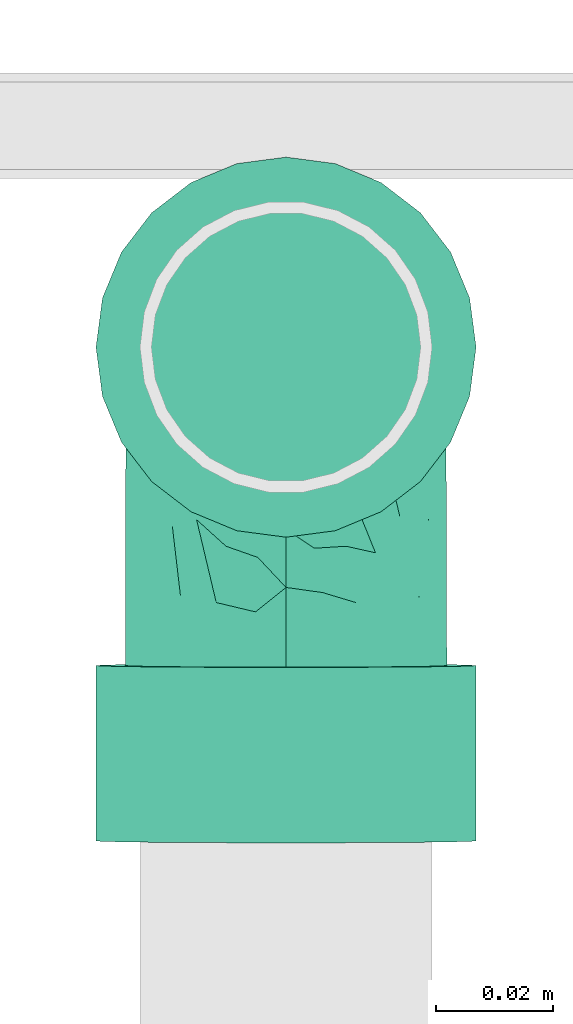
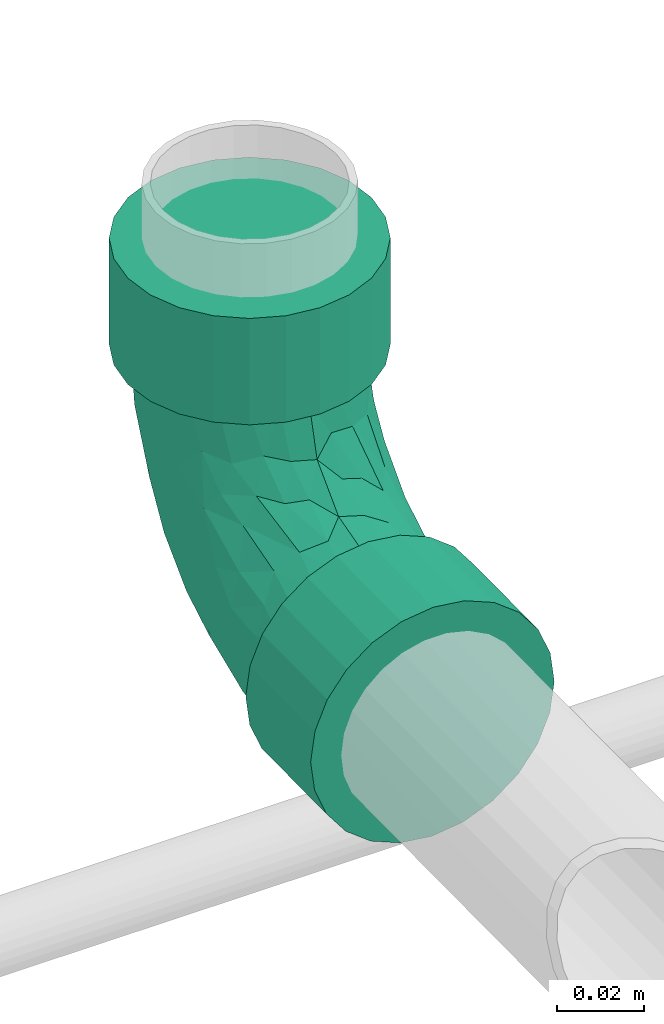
# One storey, part 29 of 35: 1 flow fitting.
"""IFC2X3 building model written with IfcOpenShell, lengths in millimetres."""

from ifc_helpers import new_model, entity, si_unit, converted_unit, derived_unit, direction, frame, origin_with_axes, place, context, subcontext, project, spatial, open_shell, surface_model, source, transform, mapped, type_object, element, save


model = new_model("IFC2X3")

# Units and contexts
model_context = context("Model", 3, precision=0.01, world=frame((0.0, 4.29681676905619e-09, 0.0)), true_north=direction((4.01073788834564e-13, 1.0)))
plan_context = context("Plan", 3, precision=0.01, world=frame((0.0, 4.29681676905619e-09, 0.0)), true_north=direction((4.01073788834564e-13, 1.0)))
body_context = subcontext(model_context, "Body", "Model", "MODEL_VIEW")
ifc_project = project(units=[converted_unit("PLANEANGLEUNIT", "DEGREE", entity("IfcPositiveLengthMeasure", 0.0174532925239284), si_unit("PLANEANGLEUNIT", "RADIAN"), dimensions=[0, 0, 0, 0, 0, 0, 0]), si_unit("AREAUNIT", "SQUARE_METRE"), si_unit("LENGTHUNIT", "METRE", prefix="MILLI"), si_unit("MASSUNIT", "GRAM", prefix="KILO"), si_unit("POWERUNIT", "WATT"), si_unit("PRESSUREUNIT", "PASCAL"), si_unit("FORCEUNIT", "NEWTON", prefix="KILO"), si_unit("ELECTRICVOLTAGEUNIT", "VOLT"), si_unit("ELECTRICCURRENTUNIT", "AMPERE"), si_unit("THERMODYNAMICTEMPERATUREUNIT", "DEGREE_CELSIUS"), si_unit("TIMEUNIT", "SECOND"), si_unit("VOLUMEUNIT", "CUBIC_METRE"), derived_unit("LINEARVELOCITYUNIT", [(si_unit("LENGTHUNIT", "METRE"), 1), (si_unit("TIMEUNIT", "SECOND"), -1)]), derived_unit("VOLUMETRICFLOWRATEUNIT", [(si_unit("VOLUMEUNIT", "CUBIC_METRE"), 1), (si_unit("TIMEUNIT", "SECOND"), -1)]), derived_unit("THERMALTRANSMITTANCEUNIT", [(si_unit("POWERUNIT", "WATT"), 1), (si_unit("THERMODYNAMICTEMPERATUREUNIT", "KELVIN"), -1), (si_unit("AREAUNIT", "SQUARE_METRE"), -1)]), derived_unit("SOUNDPRESSUREUNIT", [(si_unit("PRESSUREUNIT", "PASCAL"), 1)])], contexts=[model_context, plan_context])

# Site, building, storey
site_placement = place(None, frame((0.0, -4.29681676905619e-09, 0.0), z_axis=(0.0, 0.0, 1.0), x_axis=(1.0, 0.0, 0.0)))
site = spatial("IfcSite", under=ifc_project, at=site_placement, Name="ENGM", CompositionType="ELEMENT")
building_placement = place(site_placement, frame((0.0, 4.29681676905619e-09, 0.0), z_axis=(0.0, 0.0, 1.0), x_axis=(1.0, 0.0, 0.0)))
building = spatial("IfcBuilding", under=site, at=building_placement, Name="TH", CompositionType="ELEMENT")
storey_placement = place(building_placement, frame((0.0, 0.0, 210200.0), z_axis=(0.0, 0.0, 1.0), x_axis=(1.0, 0.0, 0.0)))
storey = spatial("IfcBuildingStorey", under=building, at=storey_placement, Name="Nivå F - 0,7 m", CompositionType="ELEMENT", Elevation=210200.0)

# Flow fitting
pipe_fitting_type = type_object("IfcPipeFittingType", Name="magi_sewer_bend_001 2", PredefinedType="BEND")
shared_shape = source(origin_with_axes(), body_context, "Body", "SurfaceModel", [
    surface_model("IfcShellBasedSurfaceModel", [(-84.45275, -16.25, -28.14582), (-84.45275, 0.0, -32.5), (-84.45275, -8.41162, -31.39259), (-84.45275, -28.14582, -16.25), (-84.45275, -22.98097, -22.98097), (-84.45275, -31.39259, -8.41162), (-84.45275, 22.98097, -22.98097), (-84.45275, 32.5, 0.0), (-84.45275, 16.25, -28.14582), (-84.45275, 8.41162, -31.39259), (-84.45275, 31.39259, -8.41162), (-84.45275, 28.14582, -16.25), (-84.45275, -32.5, 0.0), (-84.45275, -31.39259, 8.41162), (-84.45275, 0.0, 32.5), (-84.45275, -28.14582, 16.25), (-84.45275, -16.25, 28.14582), (-84.45275, -22.98097, 22.98097), (-84.45275, -8.41162, 31.39259), (-84.45275, 28.14582, 16.25), (-84.45275, 31.39259, 8.41162), (-84.45275, 22.98097, 22.98097), (-84.45275, 16.25, 28.14582), (-84.45275, 8.41162, 31.39259), (-54.45275, 0.0, 32.5), (-54.45275, -8.41162, 31.39259), (-54.45275, -16.25, 28.14582), (-54.45275, -28.14582, 16.25), (-54.45275, -31.39259, 8.41162), (-54.45275, -22.98097, 22.98097), (-54.45275, 32.5, 0.0), (-54.45275, 16.25, 28.14582), (-54.45275, 8.41162, 31.39259), (-54.45275, 22.98097, 22.98097), (-54.45275, 28.14582, 16.25), (-54.45275, 31.39259, 8.41162), (-54.45275, -16.25, -28.14582), (-54.45275, -31.39259, -8.41162), (-54.45275, -28.14582, -16.25), (-54.45275, 22.98097, -22.98097), (-54.45275, -22.98097, -22.98097), (-54.45275, -8.41162, -31.39259), (-54.45275, 0.0, -32.5), (-54.45275, 31.39259, -8.41162), (-54.45275, 28.14582, -16.25), (-54.45275, 16.25, -28.14582), (-54.45275, 8.41162, -31.39259), (-54.45275, -32.5, 0.0), (-27.29993, 84.72998, 16.25), (-31.65389, 84.77351, 0.0), (-30.54653, 84.76244, 8.41162), (-7.56671, 84.53264, 31.39259), (-22.13534, 84.67833, 22.98097), (-27.29993, 84.72998, -16.25), (-15.4047, 84.61102, 28.14582), (-22.13534, 84.67833, -22.98097), (0.84449, 84.44852, -32.5), (-30.54653, 84.76244, -8.41162), (-7.56671, 84.53264, -31.39259), (-15.4047, 84.61102, -28.14582), (0.84449, 84.44852, 32.5), (9.25568, 84.36442, 31.39259), (17.09367, 84.28603, 28.14582), (23.82431, 84.21873, 22.98097), (28.9889, 84.16708, 16.25), (32.23551, 84.13462, 8.41162), (33.34286, 84.12354, 0.0), (9.25568, 84.36442, -31.39259), (23.82431, 84.21873, -22.98097), (17.09367, 84.28603, -28.14582), (32.23551, 84.13462, -8.41162), (28.9889, 84.16708, -16.25), (33.04288, 54.12504, 0.0), (31.93552, 54.13612, 8.41162), (28.68892, 54.16858, 16.25), (16.79369, 54.28753, 28.14582), (8.9557, 54.36592, 31.39259), (23.52432, 54.22023, 22.98097), (31.93552, 54.13612, -8.41162), (23.52432, 54.22023, -22.98097), (28.68892, 54.16858, -16.25), (8.9557, 54.36592, -31.39259), (16.79369, 54.28753, -28.14582), (-7.8667, 54.53414, -31.39259), (0.5445, 54.45003, -32.5), (-7.8667, 54.53414, 31.39259), (-22.43532, 54.67982, 22.98097), (-15.70469, 54.61252, 28.14582), (-27.59992, 54.73147, 16.25), (-30.84652, 54.76394, 8.41162), (-27.59992, 54.73147, -16.25), (-22.43532, 54.67982, -22.98097), (-15.70469, 54.61252, -28.14582), (-30.84652, 54.76394, -8.41162), (-31.95387, 54.77501, 0.0), (0.5445, 54.45003, 32.5), (-54.45275, 13.75, -23.8157), (-54.45275, 7.11752, -26.56296), (-54.45275, 0.0, -27.5), (-54.45275, -27.5, 0.0), (-54.45275, 26.56296, -7.11752), (-54.45275, 23.8157, -13.75), (-54.45275, 19.44544, -19.44544), (-54.45275, 23.8157, 13.75), (-54.45275, -13.75, -23.8157), (-54.45275, -19.44544, -19.44544), (-54.45275, -7.11752, -26.56296), (-54.45275, -23.8157, -13.75), (-54.45275, -26.56296, -7.11752), (-54.45275, 26.56296, 7.11752), (-54.45275, 27.5, 0.0), (-54.45275, -13.75, 23.8157), (-54.45275, 0.0, 27.5), (-54.45275, 13.75, 23.8157), (-54.45275, 19.44544, 19.44544), (-54.45275, 7.11752, 26.56296), (-54.45275, -19.44544, 19.44544), (-54.45275, -23.8157, 13.75), (-54.45275, -26.56296, 7.11752), (-54.45275, -7.11752, 26.56296), (0.5445, 54.45003, -27.5), (-6.57267, 54.5212, -26.56296), (-13.20481, 54.58752, -23.8157), (28.04313, 54.17504, 0.0), (-26.95413, 54.72501, 0.0), (-23.27001, 54.68817, -13.75), (-18.89996, 54.64447, -19.44544), (14.29381, 54.31253, -23.8157), (19.98896, 54.25558, -19.44544), (7.66167, 54.37886, -26.56296), (27.10613, 54.18441, -7.11752), (24.35901, 54.21188, -13.75), (-26.01713, 54.71564, -7.11752), (-26.01713, 54.71564, 7.11752), (-23.27001, 54.68817, 13.75), (-18.89996, 54.64447, 19.44544), (-13.20481, 54.58752, 23.8157), (-6.57267, 54.5212, 26.56296), (0.5445, 54.45003, 27.5), (24.35901, 54.21188, 13.75), (14.29381, 54.31253, 23.8157), (19.98896, 54.25558, 19.44544), (27.10613, 54.18441, 7.11752), (7.66167, 54.37886, 26.56296), (-39.76675, -21.35531, 15.44241), (-35.54863, -15.85366, 20.49833), (-38.76238, -24.39937, 0.0), (-23.71018, -17.48364, 13.89119), (-35.9842, -23.9951, 8.58599), (24.35372, 35.74247, 8.58599), (19.59056, 20.74364, 7.03942), (21.52839, 22.85788, 0.0), (-26.42903, 43.6757, 11.93584), (-39.87749, -10.39112, 24.74572), (-40.63376, 3.77208, 27.43142), (-36.84803, 11.86995, 26.18074), (-46.96523, 10.26665, 25.75338), (-9.74042, -12.463, 0.0), (-20.9385, -19.38216, 7.03943), (-23.07201, -21.29875, 0.0), (-20.878, -6.73955, 22.86535), (-26.99963, -0.28877, 26.66392), (-1.86279, -4.56869, 12.56519), (-0.29377, 0.34436, 16.57393), (-9.02795, -6.65917, 17.03928), (-33.84783, 23.56043, 21.28714), (-42.68951, 17.25577, 22.73934), (-29.41572, 20.99402, 24.35452), (-9.28261, 26.79544, 27.44443), (-20.03713, 20.2385, 26.81861), (-16.12228, 11.88962, 27.36846), (-41.21817, 23.28907, 18.17463), (-41.55809, -3.64447, 27.03321), (-9.79651, 47.06554, 25.75338), (-3.36558, 40.66944, 27.43142), (-27.8165, 9.2733, 27.42115), (-43.40923, 26.86444, 11.93584), (-41.6715, 29.83797, 6.26061), (-34.87456, 29.50055, 15.29902), (-6.89758, 18.05325, 26.99986), (-13.29145, 5.02005, 25.71449), (-2.43985, 14.63188, 25.27333), (-4.66048, 4.70732, 22.52789), (16.20834, 35.38832, 20.49833), (17.71985, 23.53416, 13.89119), (21.75189, 39.55122, 15.44241), (-33.70579, 34.04453, 10.26696), (4.05985, 41.51957, 27.03321), (10.78936, 39.7716, 24.74572), (6.94799, 20.80957, 22.86535), (24.78576, 38.51646, 0.0), (-11.5009, 36.96489, 26.18074), (-34.0245, 35.95558, 4.8359), (-40.78221, 31.1386, 0.0), (12.79904, 21.66776, 18.81196), (6.55839, 9.08609, 17.32378), (-30.72924, 41.09154, 0.0), (-28.19609, 45.27528, 5.21852), (-22.54579, 42.5286, 18.05566), (-19.57329, 35.24434, 23.1044), (-16.34593, 45.76032, 22.51571), (-17.84961, 28.89125, 25.60197), (-21.74546, -12.54854, 18.82097), (-28.66057, 30.50903, 19.45832), (0.55874, 26.99539, 26.66392), (-12.51856, -12.23827, 12.98169), (1.96444, -3.64161, 7.7884), (8.89107, 4.7398, 9.35149), (12.55978, 9.61531, 0.0), (-28.24356, 16.2174, 26.25157), (-6.77564, -10.81841, 8.12537), (3.59116, -3.62725, 0.0), (-21.74546, -12.54854, -18.82096), (-35.54863, -15.85366, -20.49833), (-20.878, -6.73955, -22.86535), (-23.71018, -17.48364, -13.89119), (-42.30103, 22.96993, -18.05566), (-45.59459, 16.80269, -22.51571), (-44.99107, 28.64741, -5.21852), (-35.9842, -23.9951, -8.58599), (-43.40923, 26.86444, -11.93584), (-20.9385, -19.38216, -7.03942), (-36.84803, 11.86995, -26.18074), (-35.04686, 19.92474, -23.1044), (-28.71132, 18.13762, -25.60197), (-22.87575, 41.44898, -18.17463), (10.78936, 39.7716, -24.74572), (6.94799, 20.80957, -22.86535), (0.55874, 26.99539, -26.66392), (-46.96523, 10.26665, -25.75338), (-39.76675, -21.35531, -15.44241), (-39.87749, -10.39112, -24.74572), (-26.42903, 43.67569, -11.93584), (-29.15035, 35.1678, -15.29902), (-33.70579, 34.04453, -10.26696), (-41.55809, -3.64447, -27.03321), (-26.70128, 9.55009, -27.44443), (-20.03713, 20.2385, -26.81861), (-11.72781, 16.24036, -27.36846), (-40.63376, 3.77208, -27.43142), (-29.41978, 41.96778, -6.26061), (-3.36558, 40.66944, -27.43142), (-11.5009, 36.96489, -26.18074), (-20.69883, 29.62418, -24.35452), (-16.82804, 42.85992, -22.73934), (-35.61355, 34.38234, -4.8359), (-23.22079, 34.08173, -21.28714), (-9.79651, 47.06554, -25.75338), (21.75189, 39.55122, -15.44241), (16.20834, 35.38832, -20.49833), (4.05985, 41.51957, -27.03321), (8.89107, 4.7398, -9.35149), (19.59056, 20.74364, -7.03942), (-8.99468, 27.90784, -27.42115), (-17.98338, 7.07776, -26.99986), (-4.88689, 13.34099, -25.71449), (-14.60675, 2.58604, -25.27333), (1.96444, -3.64161, -7.78839), (-6.77564, -10.81841, -8.12537), (-1.86279, -4.56869, -12.56519), (17.71985, 23.53417, -13.89119), (24.35372, 35.74247, -8.58599), (-30.22091, 28.96421, -19.45832), (6.55839, 9.0861, -17.32378), (-26.99963, -0.28877, -26.66392), (-4.66048, 4.70732, -22.52789), (-9.02795, -6.65917, -17.03928), (12.76333, 21.66044, -18.84256), (-12.51856, -12.23827, -12.98169), (-0.29377, 0.34436, -16.57393), (-15.93417, 28.40431, -26.25157)], [open_shell([[[0, 1, 2]], [[3, 0, 4]], [[1, 3, 5]], [[3, 1, 0]], [[6, 5, 7]], [[1, 8, 9]], [[8, 1, 6]], [[6, 10, 11]], [[6, 1, 5]], [[6, 7, 10]], [[5, 12, 13]], [[14, 13, 15]], [[16, 15, 17]], [[16, 18, 14]], [[16, 14, 15]], [[13, 14, 7]], [[7, 19, 20]], [[19, 7, 21]], [[14, 22, 21]], [[21, 7, 14]], [[23, 22, 14]], [[13, 7, 5]], [[24, 25, 26]], [[24, 26, 27]], [[27, 28, 24]], [[27, 26, 29]], [[24, 28, 30]], [[24, 31, 32]], [[24, 33, 31]], [[34, 30, 35]], [[30, 34, 33]], [[24, 30, 33]], [[28, 36, 30]], [[28, 37, 38]], [[28, 38, 36]], [[36, 39, 30]], [[36, 38, 40]], [[41, 42, 36]], [[43, 39, 44]], [[30, 39, 43]], [[45, 42, 46]], [[42, 45, 39]], [[36, 42, 39]], [[37, 28, 47]], [[43, 10, 30]], [[44, 11, 43]], [[8, 39, 45]], [[44, 39, 6]], [[9, 45, 46]], [[43, 11, 10]], [[10, 7, 30]], [[9, 8, 45]], [[6, 39, 8]], [[6, 11, 44]], [[1, 9, 46]], [[46, 42, 1]], [[2, 42, 41]], [[0, 41, 36]], [[3, 38, 37]], [[5, 37, 47]], [[41, 0, 2]], [[0, 36, 40]], [[0, 40, 4]], [[40, 38, 4]], [[4, 38, 3]], [[3, 37, 5]], [[47, 12, 5]], [[42, 2, 1]], [[28, 13, 47]], [[27, 15, 28]], [[16, 29, 26]], [[27, 29, 17]], [[18, 26, 25]], [[28, 15, 13]], [[13, 12, 47]], [[18, 16, 26]], [[17, 29, 16]], [[17, 15, 27]], [[14, 18, 25]], [[25, 24, 14]], [[22, 31, 33]], [[19, 34, 35]], [[33, 34, 21]], [[20, 35, 30]], [[32, 22, 23]], [[32, 31, 22]], [[23, 14, 32]], [[33, 21, 22]], [[34, 19, 21]], [[20, 19, 35]], [[30, 7, 20]], [[32, 14, 24]], [[48, 49, 50]], [[51, 48, 52]], [[48, 51, 53]], [[51, 52, 54]], [[55, 51, 56]], [[49, 53, 57]], [[49, 48, 53]], [[55, 58, 59]], [[53, 51, 55]], [[55, 56, 58]], [[51, 60, 56]], [[61, 62, 63]], [[61, 63, 64]], [[64, 65, 66]], [[61, 64, 56]], [[56, 64, 66]], [[67, 68, 69]], [[67, 56, 66]], [[68, 70, 71]], [[68, 67, 66]], [[70, 68, 66]], [[61, 56, 60]], [[72, 73, 74]], [[72, 74, 75]], [[75, 76, 72]], [[75, 74, 77]], [[72, 76, 78]], [[78, 79, 80]], [[79, 78, 81]], [[79, 81, 82]], [[78, 76, 81]], [[81, 83, 84]], [[81, 76, 85]], [[83, 81, 85]], [[86, 85, 87]], [[85, 88, 83]], [[88, 85, 86]], [[89, 90, 88]], [[83, 91, 92]], [[83, 88, 91]], [[89, 93, 90]], [[91, 88, 90]], [[94, 93, 89]], [[85, 76, 95]], [[83, 58, 84]], [[92, 59, 83]], [[53, 91, 90]], [[92, 91, 55]], [[57, 90, 93]], [[83, 59, 58]], [[58, 56, 84]], [[57, 53, 90]], [[55, 91, 53]], [[55, 59, 92]], [[49, 57, 93]], [[93, 94, 49]], [[50, 94, 89]], [[48, 89, 88]], [[54, 87, 85]], [[51, 85, 95]], [[89, 48, 50]], [[48, 88, 86]], [[48, 86, 52]], [[86, 87, 52]], [[52, 87, 54]], [[54, 85, 51]], [[95, 60, 51]], [[94, 50, 49]], [[76, 61, 95]], [[75, 62, 76]], [[64, 77, 74]], [[75, 77, 63]], [[65, 74, 73]], [[76, 62, 61]], [[61, 60, 95]], [[65, 64, 74]], [[63, 77, 64]], [[63, 62, 75]], [[66, 65, 73]], [[73, 72, 66]], [[71, 80, 79]], [[69, 82, 81]], [[79, 82, 68]], [[67, 81, 84]], [[78, 71, 70]], [[78, 80, 71]], [[70, 66, 78]], [[79, 68, 71]], [[82, 69, 68]], [[67, 69, 81]], [[84, 56, 67]], [[78, 66, 72]], [[96, 97, 98]], [[96, 98, 99]], [[100, 101, 102]], [[96, 100, 102]], [[96, 99, 103]], [[104, 105, 98]], [[98, 106, 104]], [[107, 108, 105]], [[99, 105, 108]], [[98, 105, 99]], [[103, 100, 96]], [[103, 109, 110]], [[99, 111, 103]], [[112, 113, 103]], [[114, 103, 113]], [[113, 112, 115]], [[116, 111, 117]], [[117, 99, 118]], [[119, 112, 111]], [[111, 99, 117]], [[103, 111, 112]], [[103, 110, 100]], [[120, 121, 122]], [[123, 120, 122]], [[124, 123, 122]], [[125, 122, 126]], [[125, 124, 122]], [[127, 123, 128]], [[127, 129, 120]], [[128, 130, 131]], [[130, 128, 123]], [[120, 123, 127]], [[125, 132, 124]], [[124, 133, 134]], [[134, 135, 123]], [[135, 136, 137]], [[135, 138, 123]], [[137, 138, 135]], [[139, 140, 141]], [[142, 123, 139]], [[140, 138, 143]], [[140, 139, 123]], [[140, 123, 138]], [[124, 134, 123]], [[116, 144, 145]], [[118, 99, 146]], [[147, 144, 148]], [[149, 150, 151]], [[144, 116, 117]], [[118, 148, 117]], [[152, 134, 133]], [[145, 111, 116]], [[145, 153, 111]], [[154, 155, 156]], [[157, 158, 159]], [[153, 160, 161]], [[162, 163, 164]], [[165, 166, 167]], [[168, 169, 170]], [[171, 114, 166]], [[119, 172, 112]], [[137, 173, 174]], [[155, 154, 175]], [[176, 109, 103]], [[114, 171, 103]], [[110, 109, 177]], [[165, 178, 171]], [[177, 109, 176]], [[115, 156, 113]], [[179, 180, 181]], [[164, 182, 160]], [[183, 141, 140]], [[184, 185, 183]], [[176, 178, 186]], [[111, 153, 119]], [[138, 187, 143]], [[149, 142, 139]], [[138, 137, 174]], [[183, 188, 189]], [[139, 185, 149]], [[190, 142, 149]], [[185, 139, 141]], [[188, 140, 143]], [[149, 151, 190]], [[114, 113, 166]], [[150, 149, 184]], [[191, 168, 174]], [[192, 193, 177]], [[194, 189, 195]], [[196, 197, 124]], [[198, 199, 200]], [[152, 133, 197]], [[158, 148, 159]], [[198, 135, 134]], [[155, 167, 166]], [[199, 201, 191]], [[118, 146, 148]], [[200, 136, 135]], [[173, 137, 136]], [[115, 112, 154]], [[202, 160, 145]], [[188, 183, 140]], [[198, 134, 152]], [[198, 152, 203]], [[199, 198, 203]], [[191, 201, 168]], [[187, 174, 204]], [[172, 154, 112]], [[161, 170, 175]], [[160, 153, 145]], [[159, 148, 146]], [[172, 153, 161]], [[202, 145, 147]], [[160, 182, 180]], [[187, 188, 143]], [[123, 142, 190]], [[204, 181, 189]], [[204, 189, 188]], [[189, 182, 195]], [[205, 164, 202]], [[162, 164, 205]], [[158, 147, 148]], [[162, 206, 207]], [[207, 208, 150]], [[194, 184, 183]], [[148, 144, 117]], [[145, 144, 147]], [[183, 185, 141]], [[149, 185, 184]], [[156, 166, 113]], [[209, 169, 167]], [[199, 203, 167]], [[191, 173, 200]], [[171, 176, 103]], [[177, 176, 186]], [[192, 197, 196]], [[186, 178, 152]], [[163, 182, 164]], [[184, 195, 207]], [[167, 169, 201]], [[165, 203, 178]], [[169, 209, 175]], [[204, 174, 168]], [[180, 170, 161]], [[168, 170, 179]], [[174, 187, 138]], [[188, 187, 204]], [[153, 172, 119]], [[154, 172, 161]], [[161, 175, 154]], [[169, 175, 170]], [[192, 177, 186]], [[177, 193, 110]], [[197, 186, 152]], [[193, 192, 196]], [[197, 192, 186]], [[124, 197, 133]], [[171, 178, 176]], [[152, 178, 203]], [[198, 200, 135]], [[191, 200, 199]], [[160, 180, 161]], [[181, 180, 182]], [[189, 181, 182]], [[179, 181, 204]], [[168, 179, 204]], [[180, 179, 170]], [[200, 173, 136]], [[174, 173, 191]], [[154, 156, 115]], [[166, 156, 155]], [[158, 157, 210]], [[205, 158, 210]], [[184, 207, 150]], [[211, 210, 157]], [[205, 202, 147]], [[208, 207, 211]], [[208, 151, 150]], [[164, 160, 202]], [[158, 205, 147]], [[162, 205, 210]], [[206, 162, 210]], [[163, 207, 195]], [[210, 211, 206]], [[211, 207, 206]], [[207, 163, 162]], [[182, 163, 195]], [[167, 201, 199]], [[168, 201, 169]], [[189, 194, 183]], [[195, 184, 194]], [[167, 155, 209]], [[175, 209, 155]], [[166, 165, 171]], [[167, 203, 165]], [[212, 213, 214]], [[213, 212, 215]], [[101, 216, 102]], [[102, 217, 96]], [[193, 218, 110]], [[146, 108, 219]], [[220, 100, 218]], [[219, 221, 159]], [[222, 223, 224]], [[126, 225, 125]], [[226, 227, 228]], [[96, 229, 97]], [[219, 107, 230]], [[231, 104, 106]], [[219, 159, 146]], [[216, 101, 220]], [[107, 105, 230]], [[232, 233, 234]], [[235, 106, 98]], [[236, 237, 238]], [[107, 219, 108]], [[215, 230, 213]], [[239, 98, 97]], [[240, 132, 232]], [[121, 120, 241]], [[242, 243, 244]], [[196, 240, 245]], [[126, 122, 244]], [[124, 132, 240]], [[222, 236, 239]], [[225, 246, 233]], [[241, 242, 247]], [[213, 105, 104]], [[244, 225, 126]], [[247, 122, 121]], [[128, 248, 249]], [[120, 129, 250]], [[251, 252, 208]], [[101, 100, 220]], [[244, 243, 246]], [[97, 229, 239]], [[127, 249, 226]], [[231, 213, 104]], [[242, 241, 253]], [[254, 255, 256]], [[257, 258, 259]], [[131, 248, 128]], [[249, 127, 128]], [[260, 248, 261]], [[221, 219, 215]], [[123, 190, 130]], [[130, 190, 261]], [[252, 261, 151]], [[130, 261, 131]], [[216, 223, 217]], [[216, 220, 262]], [[251, 263, 260]], [[132, 125, 232]], [[127, 226, 129]], [[213, 231, 214]], [[223, 216, 262]], [[222, 224, 236]], [[235, 239, 264]], [[250, 241, 120]], [[228, 238, 253]], [[235, 231, 106]], [[99, 108, 146]], [[264, 256, 214]], [[264, 214, 231]], [[214, 265, 266]], [[227, 226, 249]], [[151, 261, 190]], [[250, 226, 228]], [[227, 267, 263]], [[227, 265, 255]], [[265, 227, 263]], [[215, 212, 268]], [[263, 269, 265]], [[157, 221, 258]], [[259, 258, 268]], [[252, 260, 261]], [[213, 230, 105]], [[219, 230, 215]], [[261, 248, 131]], [[249, 248, 260]], [[247, 244, 122]], [[242, 270, 243]], [[223, 262, 243]], [[222, 229, 217]], [[225, 232, 125]], [[240, 232, 234]], [[245, 218, 193]], [[234, 233, 220]], [[227, 249, 267]], [[251, 259, 269]], [[243, 237, 224]], [[246, 262, 233]], [[237, 270, 253]], [[264, 239, 236]], [[255, 238, 228]], [[236, 238, 254]], [[239, 235, 98]], [[231, 235, 264]], [[226, 250, 129]], [[241, 250, 228]], [[228, 253, 241]], [[237, 253, 238]], [[245, 240, 234]], [[240, 196, 124]], [[218, 234, 220]], [[196, 245, 193]], [[218, 245, 234]], [[110, 218, 100]], [[225, 233, 232]], [[220, 233, 262]], [[216, 217, 102]], [[222, 217, 223]], [[227, 255, 228]], [[256, 255, 265]], [[214, 256, 265]], [[254, 256, 264]], [[236, 254, 264]], [[255, 254, 238]], [[217, 229, 96]], [[239, 229, 222]], [[241, 247, 121]], [[244, 247, 242]], [[268, 221, 215]], [[258, 211, 157]], [[208, 211, 251]], [[159, 221, 157]], [[251, 260, 252]], [[252, 151, 208]], [[214, 266, 212]], [[268, 212, 266]], [[259, 268, 266]], [[221, 268, 258]], [[269, 259, 266]], [[257, 259, 251]], [[251, 211, 257]], [[211, 258, 257]], [[265, 269, 266]], [[251, 269, 263]], [[243, 224, 223]], [[236, 224, 237]], [[249, 260, 267]], [[260, 263, 267]], [[253, 270, 242]], [[237, 243, 270]], [[244, 246, 225]], [[243, 262, 246]]])]),
])
flow_fitting_placement = place(storey_placement, frame((898747.47481, 483939.87451, 321.889380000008), z_axis=(1.0, 0.0, 0.0), x_axis=(0.0, 0.999949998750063, 0.00999999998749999)))
element("IfcFlowFitting", 1, at=flow_fitting_placement, inside=storey, type_object=pipe_fitting_type, Name="magi_sewer_bend_001 2", context=body_context, shape_type="MappedRepresentation", body=[
    mapped(shared_shape, transform((0.0, 0.0, 0.0), scale=1.0)),
])

save(model, "model.ifc")
